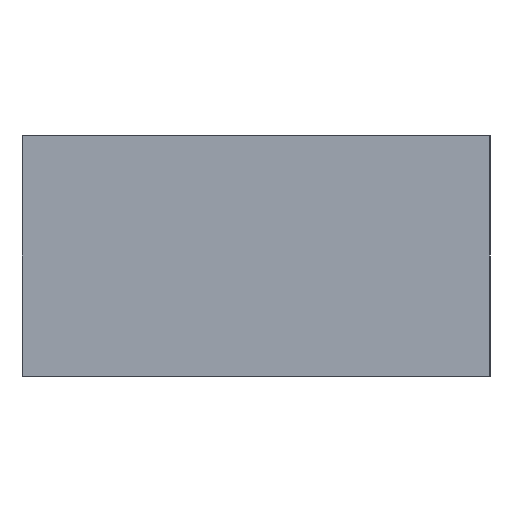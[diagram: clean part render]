
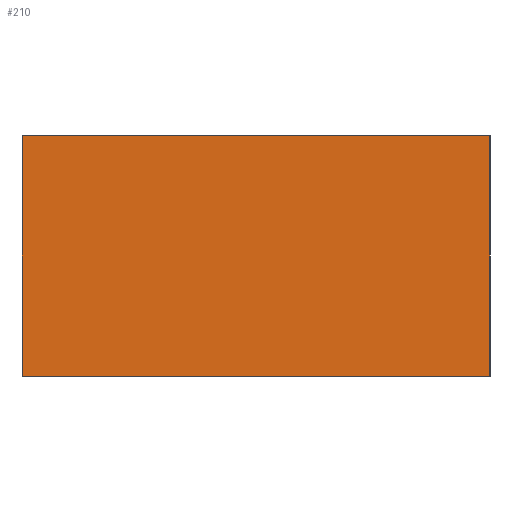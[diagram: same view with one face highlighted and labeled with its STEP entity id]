
A CAD part, left-side view. The second image highlights one B-rep face of the part: STEP entity #210.
In plain terms, the highlighted planar face has unit normal (-1, 0, 0).
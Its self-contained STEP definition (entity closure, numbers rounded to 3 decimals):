
#44=ORIENTED_EDGE('',*,*,#92,.T.);
#45=ORIENTED_EDGE('',*,*,#93,.F.);
#46=ORIENTED_EDGE('',*,*,#94,.F.);
#47=ORIENTED_EDGE('',*,*,#90,.T.);
#90=EDGE_CURVE('',#113,#112,#133,.T.);
#92=EDGE_CURVE('',#112,#114,#135,.T.);
#93=EDGE_CURVE('',#115,#114,#136,.T.);
#94=EDGE_CURVE('',#113,#115,#137,.T.);
#112=VERTEX_POINT('',#326);
#113=VERTEX_POINT('',#328);
#114=VERTEX_POINT('',#332);
#115=VERTEX_POINT('',#334);
#133=LINE('',#327,#157);
#135=LINE('',#331,#159);
#136=LINE('',#333,#160);
#137=LINE('',#335,#161);
#157=VECTOR('',#270,1000.);
#159=VECTOR('',#274,1000.);
#160=VECTOR('',#275,1000.);
#161=VECTOR('',#276,1000.);
#173=EDGE_LOOP('',(#44,#45,#46,#47));
#187=FACE_BOUND('',#173,.T.);
#200=PLANE('',#235);
#210=ADVANCED_FACE('',(#187),#200,.F.);
#235=AXIS2_PLACEMENT_3D('',#330,#272,#273);
#270=DIRECTION('',(0.,1.,0.));
#272=DIRECTION('',(1.,0.,0.));
#273=DIRECTION('',(0.,0.,-1.));
#274=DIRECTION('',(0.,0.,-1.));
#275=DIRECTION('',(0.,1.,0.));
#276=DIRECTION('',(0.,0.,-1.));
#326=CARTESIAN_POINT('',(-5.5,3.5,3.6));
#327=CARTESIAN_POINT('',(-5.5,-3.5,3.6));
#328=CARTESIAN_POINT('',(-5.5,-3.5,3.6));
#330=CARTESIAN_POINT('',(-5.5,-3.5,3.6));
#331=CARTESIAN_POINT('',(-5.5,3.5,3.6));
#332=CARTESIAN_POINT('',(-5.5,3.5,0.));
#333=CARTESIAN_POINT('',(-5.5,-3.5,0.));
#334=CARTESIAN_POINT('',(-5.5,-3.5,0.));
#335=CARTESIAN_POINT('',(-5.5,-3.5,3.6));
